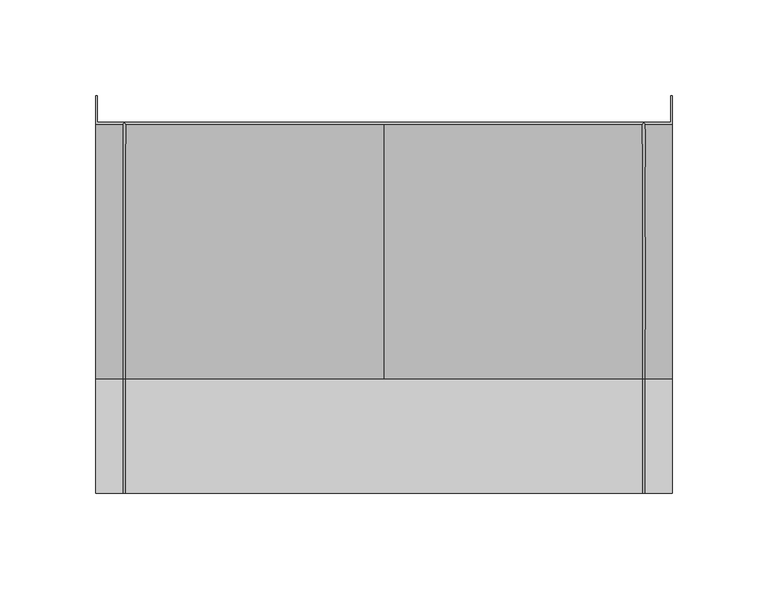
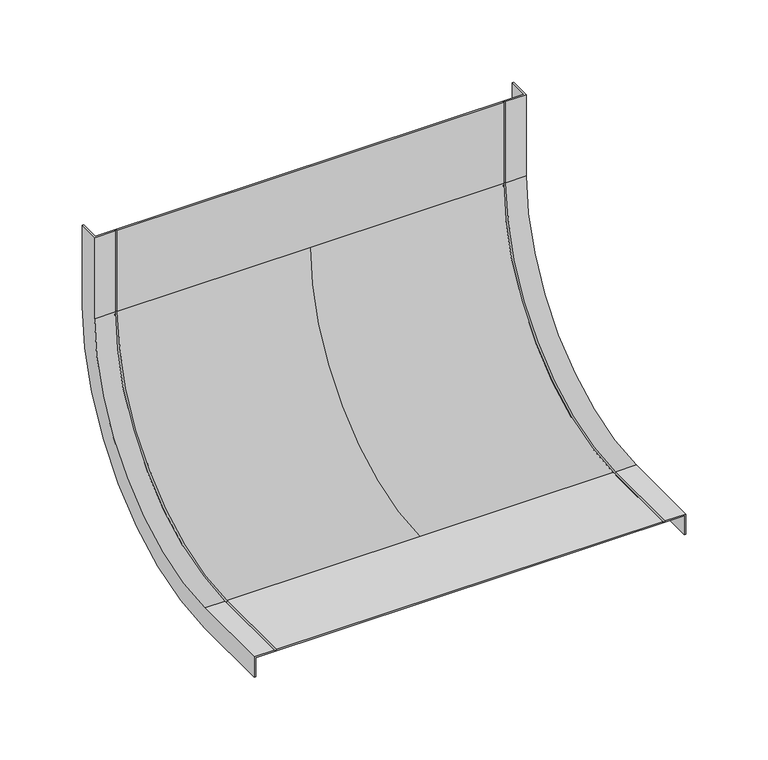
"""IFC4 building model written with IfcOpenShell, lengths in millimetres: proxy geometry, Cable_Tray_Cover_TCCERC_Basortray : Basortray TCCERC 300-GS."""

from ifc_helpers import new_model, si_unit, point, frame, origin, place, context, project, spatial, polyline, circle_curve, ellipse_curve, trimmed, source, transform, mapped, element, save
from ifc_brep_helpers import plane_surface, cylinder_surface, revolved_surface, advanced_brep


def generic_models_c980e6e2(model_context):
    return source(origin(), model_context, "Body", "AdvancedBrep", [
        advanced_brep(
        [(151.0, -0.8, 194.0), (151.0, 14.2, 194.0), (150.0, 14.2, 194.0), (150.0, 0.2, 194.0), (-150.0, 0.2, 194.0), (-150.0, 14.2, 194.0), (-151.0, 14.2, 194.0), (-151.0, -0.8, 194.0), (-136.8, -0.8, 194.0), (-135.2, -0.8, 194.0), (135.2, -0.8, 194.0), (136.8, -0.8, 194.0), (-135.2, -0.8, 134.0), (0.0, -0.8, 134.0), (135.2, -0.8, 134.0), (-151.0, -0.8, 134.0), (-136.8, -0.8, 134.0), (151.0, -0.8, 134.0), (136.8, -0.8, 134.0), (-151.0, 14.2, 134.0), (-151.0, -134.0, -14.2), (-151.0, -194.0, -14.2), (-151.0, -194.0, 0.8), (-151.0, -134.0, 0.8), (-150.0, 14.2, 134.0), (-150.0, 0.2, 134.0), (-150.0, -134.0, -0.2), (-150.0, -194.0, -0.2), (-150.0, -194.0, -14.2), (-150.0, -134.0, -14.2), (150.0, 0.2, 134.0), (0.0, 0.2, 134.0), (150.0, 14.2, 134.0), (150.0, -134.0, -14.2), (150.0, -194.0, -14.2), (150.0, -194.0, -0.2), (150.0, -134.0, -0.2), (151.0, 14.2, 134.0), (151.0, -134.0, 0.8), (151.0, -194.0, 0.8), (151.0, -194.0, -14.2), (151.0, -134.0, -14.2), (136.8, -134.0, 0.8), (0.0, -134.0, 0.8), (135.2, -134.0, 0.8), (-136.8, -134.0, 0.8), (-135.2, -134.0, 0.8), (0.0, -134.0, -0.2), (136.8, -194.0, 0.8), (135.2, -194.0, 0.8), (-135.2, -194.0, 0.8), (-136.8, -194.0, 0.8)],
        [
            (0, 1),
            (1, 2),
            (2, 3),
            (3, 4),
            (4, 5),
            (5, 6),
            (6, 7),
            (7, 8),
            (8, 9, circle_curve(frame((-136.0, -0.8, 194.0), z_axis=(0.0, 0.0, -1.0), x_axis=(1.0, 0.0, 0.0)), 0.8)),
            (9, 10),
            (10, 11, circle_curve(frame((136.0, -0.8, 194.0), z_axis=(0.0, 0.0, -1.0), x_axis=(1.0, 0.0, 0.0)), 0.8)),
            (11, 0),
            (9, 12),
            (12, 13),
            (13, 14),
            (14, 10),
            (7, 15),
            (15, 16),
            (16, 8),
            (17, 0),
            (11, 18),
            (18, 17),
            (6, 19),
            (19, 20, circle_curve(frame((-151.0, -134.0, 134.0), z_axis=(-1.0, 0.0, 0.0), x_axis=(0.0, 1.0, 0.0)), 148.2)),
            (20, 21),
            (21, 22),
            (22, 23),
            (23, 15, circle_curve(frame((-151.0, -134.0, 134.0), z_axis=(1.0, 0.0, 0.0), x_axis=(0.0, 1.0, 0.0)), 133.2)),
            (5, 24),
            (24, 19),
            (4, 25),
            (25, 26, circle_curve(frame((-150.0, -134.0, 134.0), z_axis=(-1.0, 0.0, 0.0), x_axis=(0.0, 1.0, 0.0)), 134.2)),
            (26, 27),
            (27, 28),
            (28, 29),
            (29, 24, circle_curve(frame((-150.0, -134.0, 134.0), z_axis=(1.0, 0.0, 0.0), x_axis=(0.0, 1.0, 0.0)), 148.2)),
            (3, 30),
            (30, 31),
            (31, 25),
            (2, 32),
            (32, 33, circle_curve(frame((150.0, -134.0, 134.0), z_axis=(-1.0, 0.0, 0.0), x_axis=(0.0, 1.0, 0.0)), 148.2)),
            (33, 34),
            (34, 35),
            (35, 36),
            (36, 30, circle_curve(frame((150.0, -134.0, 134.0), z_axis=(1.0, 0.0, 0.0), x_axis=(0.0, 1.0, 0.0)), 134.2)),
            (1, 37),
            (37, 32),
            (17, 38, circle_curve(frame((151.0, -134.0, 134.0), z_axis=(-1.0, 0.0, 0.0), x_axis=(0.0, 1.0, 0.0)), 133.2)),
            (38, 39),
            (39, 40),
            (40, 41),
            (41, 37, circle_curve(frame((151.0, -134.0, 134.0), z_axis=(1.0, 0.0, 0.0), x_axis=(0.0, 1.0, 0.0)), 148.2)),
            (18, 42, circle_curve(frame((136.8, -134.0, 134.0), z_axis=(-1.0, 0.0, 0.0), x_axis=(0.0, 1.0, 0.0)), 133.2)),
            (42, 38),
            (13, 43, circle_curve(frame((0.0, -134.0, 134.0), z_axis=(-1.0, 0.0, 0.0), x_axis=(0.0, 1.0, 0.0)), 133.2)),
            (43, 44),
            (44, 14, circle_curve(frame((135.2, -134.0, 134.0), z_axis=(1.0, 0.0, 0.0), x_axis=(0.0, 1.0, 0.0)), 133.2)),
            (23, 45),
            (45, 16, circle_curve(frame((-136.8, -134.0, 134.0), z_axis=(1.0, 0.0, 0.0), x_axis=(0.0, 1.0, 0.0)), 133.2)),
            (12, 46, circle_curve(frame((-135.2, -134.0, 134.0), z_axis=(-1.0, 0.0, 0.0), x_axis=(0.0, 1.0, 0.0)), 133.2)),
            (46, 43),
            (29, 20),
            (31, 47, circle_curve(frame((0.0, -134.0, 134.0), z_axis=(-1.0, 0.0, 0.0), x_axis=(0.0, 1.0, 0.0)), 134.2)),
            (47, 26),
            (36, 47),
            (41, 33),
            (21, 28),
            (27, 35),
            (34, 40),
            (39, 48),
            (48, 49, circle_curve(frame((136.0, -194.0, 0.8), z_axis=(0.0, 1.0, 0.0), x_axis=(1.0, 0.0, 0.0)), 0.8)),
            (49, 50),
            (50, 51, circle_curve(frame((-136.0, -194.0, 0.8), z_axis=(0.0, 1.0, 0.0), x_axis=(1.0, 0.0, 0.0)), 0.8)),
            (51, 22),
            (51, 45),
            (42, 48),
            (46, 50),
            (49, 44),
            (16, 12, circle_curve(frame((-136.0, -0.8, 134.0), z_axis=(0.0, 0.0, -1.0), x_axis=(1.0, 0.0, 0.0)), 0.8)),
            (14, 18, circle_curve(frame((136.0, -0.8, 134.0), z_axis=(0.0, 0.0, -1.0), x_axis=(1.0, 0.0, 0.0)), 0.8)),
            (45, 46, circle_curve(frame((-136.0, -134.0, 0.8), z_axis=(0.0, -1.0, 0.0), x_axis=(1.0, 0.0, 0.0)), 0.8)),
            (44, 42, circle_curve(frame((136.0, -134.0, 0.8), z_axis=(0.0, -1.0, 0.0), x_axis=(1.0, 0.0, 0.0)), 0.8)),
        ],
        [
            plane_surface(frame((0.0, 0.0, 194.0), z_axis=(0.0, 0.0, 1.0), x_axis=(1.0, 0.0, 0.0))),
            plane_surface(frame((0.0, -0.8, 194.0), z_axis=(0.0, -1.0, 0.0), x_axis=(0.0, 0.0, -1.0))),
            plane_surface(frame((-151.0, 14.2, 194.0), z_axis=(-1.0, 0.0, 0.0), x_axis=(0.0, 0.0, -1.0))),
            plane_surface(frame((-150.0, 14.2, 194.0), z_axis=(0.0, 1.0, 0.0), x_axis=(0.0, 0.0, -1.0))),
            plane_surface(frame((-150.0, 0.2, 194.0), z_axis=(1.0, 0.0, 0.0), x_axis=(0.0, 0.0, -1.0))),
            plane_surface(frame((0.0, 0.2, 194.0), z_axis=(0.0, 1.0, 0.0), x_axis=(0.0, 0.0, -1.0))),
            plane_surface(frame((150.0, 14.2, 194.0), z_axis=(-1.0, 0.0, 0.0), x_axis=(0.0, 0.0, -1.0))),
            plane_surface(frame((151.0, 14.2, 194.0), z_axis=(0.0, 1.0, 0.0), x_axis=(0.0, 0.0, -1.0))),
            plane_surface(frame((151.0, -0.8, 194.0), z_axis=(1.0, 0.0, 0.0), x_axis=(0.0, 0.0, -1.0))),
            revolved_surface(polyline([(136.8, -0.8000000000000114, 134.0), (151.0, -0.8000000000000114, 134.0)]), (0.0, -134.0, 134.0), (-1.0, 0.0, 0.0)),
            revolved_surface(polyline([(0.0, -0.8000000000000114, 134.0), (135.2, -0.8000000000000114, 134.0)]), (0.0, -134.0, 134.0), (-1.0, 0.0, 0.0)),
            revolved_surface(polyline([(-151.0, -0.8000000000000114, 134.0), (-136.8, -0.8000000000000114, 134.0)]), (0.0, -134.0, 134.0), (-1.0, 0.0, 0.0)),
            revolved_surface(polyline([(-135.2, -0.8000000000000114, 134.0), (0.0, -0.8000000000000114, 134.0)]), (0.0, -134.0, 134.0), (-1.0, 0.0, 0.0)),
            cylinder_surface(frame((0.0, -134.0, 134.0), z_axis=(-1.0, 0.0, 0.0), x_axis=(0.0, 1.0, 0.0)), 148.2),
            cylinder_surface(frame((0.0, -134.0, 134.0), z_axis=(-1.0, 0.0, 0.0), x_axis=(0.0, 1.0, 0.0)), 134.2),
            plane_surface(frame((0.0, -194.0, 0.0), z_axis=(0.0, -1.0, 0.0), x_axis=(1.0, 0.0, 0.0))),
            plane_surface(frame((0.0, -134.0, 0.8), z_axis=(0.0, 0.0, 1.0), x_axis=(0.0, -1.0, 0.0))),
            plane_surface(frame((-150.0, -134.0, -14.2), z_axis=(0.0, 0.0, -1.0), x_axis=(0.0, -1.0, 0.0))),
            plane_surface(frame((0.0, -134.0, -0.2), z_axis=(0.0, 0.0, -1.0), x_axis=(0.0, -1.0, 0.0))),
            plane_surface(frame((151.0, -134.0, -14.2), z_axis=(0.0, 0.0, -1.0), x_axis=(0.0, -1.0, 0.0))),
            revolved_surface(polyline([(-135.2, -0.8, 194.0), (-135.2, -0.8, 134.0)]), (-136.0, -0.8, 194.0), (0.0, 0.0, 1.0)),
            revolved_surface(polyline([(136.8, -0.8, 194.0), (136.8, -0.8, 134.0)]), (136.0, -0.8, 194.0), (0.0, 0.0, 1.0)),
            revolved_surface(trimmed(ellipse_curve(frame((-136.0, -0.8, 134.0), z_axis=(0.0, 0.0, -1.0), x_axis=(1.0, 0.0, 0.0)), 0.8, 0.8), [point((-136.8, -0.8, 134.0))], [point((-135.2, -0.8, 134.0))], True, "CARTESIAN"), (-136.0, -134.0, 134.0), (-1.0, 0.0, 0.0)),
            revolved_surface(trimmed(ellipse_curve(frame((136.0, -0.8, 134.0), z_axis=(0.0, 0.0, -1.0), x_axis=(1.0, 0.0, 0.0)), 0.8, 0.8), [point((135.2, -0.8, 134.0))], [point((136.8, -0.8, 134.0))], True, "CARTESIAN"), (-136.0, -134.0, 134.0), (-1.0, 0.0, 0.0)),
            revolved_surface(polyline([(-135.2, -134.0, 0.8), (-135.2, -194.0, 0.8)]), (-136.0, -134.0, 0.8), (0.0, 1.0, 0.0)),
            revolved_surface(polyline([(136.8, -134.0, 0.8), (136.8, -194.0, 0.8)]), (136.0, -134.0, 0.8), (0.0, 1.0, 0.0)),
        ],
        [
            (0, [[1, 2, 3, 4, 5, 6, 7, 8, 9, 10, 11, 12]]),
            (1, [[-10, 13, 14, 15, 16]]),
            (1, [[17, 18, 19, -8]]),
            (1, [[20, -12, 21, 22]]),
            (2, [[-7, 23, 24, 25, 26, 27, 28, -17]]),
            (3, [[-6, 29, 30, -23]]),
            (4, [[-5, 31, 32, 33, 34, 35, 36, -29]]),
            (5, [[-4, 37, 38, 39, -31]]),
            (6, [[-3, 40, 41, 42, 43, 44, 45, -37]]),
            (7, [[-2, 46, 47, -40]]),
            (8, [[-1, -20, 48, 49, 50, 51, 52, -46]]),
            (9, [[-48, -22, 53, 54]]),
            (10, [[55, 56, 57, -15]]),
            (11, [[-28, 58, 59, -18]]),
            (12, [[-55, -14, 60, 61]]),
            (13, [[-24, -30, -36, 62]]),
            (14, [[-32, -39, 63, 64]]),
            (14, [[-38, -45, 65, -63]]),
            (13, [[-41, -47, -52, 66]]),
            (15, [[-26, 67, -34, 68, -43, 69, -50, 70, 71, 72, 73, 74]]),
            (16, [[-27, -74, 75, -58]]),
            (16, [[-49, -54, 76, -70]]),
            (16, [[-56, -61, 77, -72, 78]]),
            (17, [[-25, -62, -35, -67]]),
            (18, [[-33, -64, -65, -44, -68]]),
            (19, [[-42, -66, -51, -69]]),
            (20, [[79, -13, -9, -19]]),
            (21, [[80, -21, -11, -16]]),
            (22, [[-79, -59, 81, -60]]),
            (23, [[-80, -57, 82, -53]]),
            (24, [[-81, -75, -73, -77]]),
            (25, [[-82, -78, -71, -76]]),
        ],
    ),
    ])


if __name__ == "__main__":
    model = new_model("IFC4")
    model_context = context("Model", 3, world=origin())
    ifc_project = project(units=[si_unit("LENGTHUNIT", "METRE", prefix="MILLI")], contexts=[model_context])
    site = spatial("IfcSite", under=ifc_project)
    building = spatial("IfcBuilding", under=site)
    placement = place(None, origin())
    generic_models_shape = generic_models_c980e6e2(model_context)
    element("IfcBuildingElementProxy", 1, Name="Cable_Tray_Cover_TCCERC_Basortray : Basortray TCCERC 300-GS", ObjectType="Cable_Tray_Cover_TCCERC_Basortray : Basortray TCCERC 300-GS", at=placement, inside=building, context=model_context, shape_type="MappedRepresentation", body=[
        mapped(generic_models_shape, transform((0.0, 0.0, 0.0), x_axis=(1.0, 0.0, 0.0), y_axis=(0.0, 1.0, 0.0), z_axis=(0.0, 0.0, 1.0))),
    ])
    save(model, "model.ifc")
